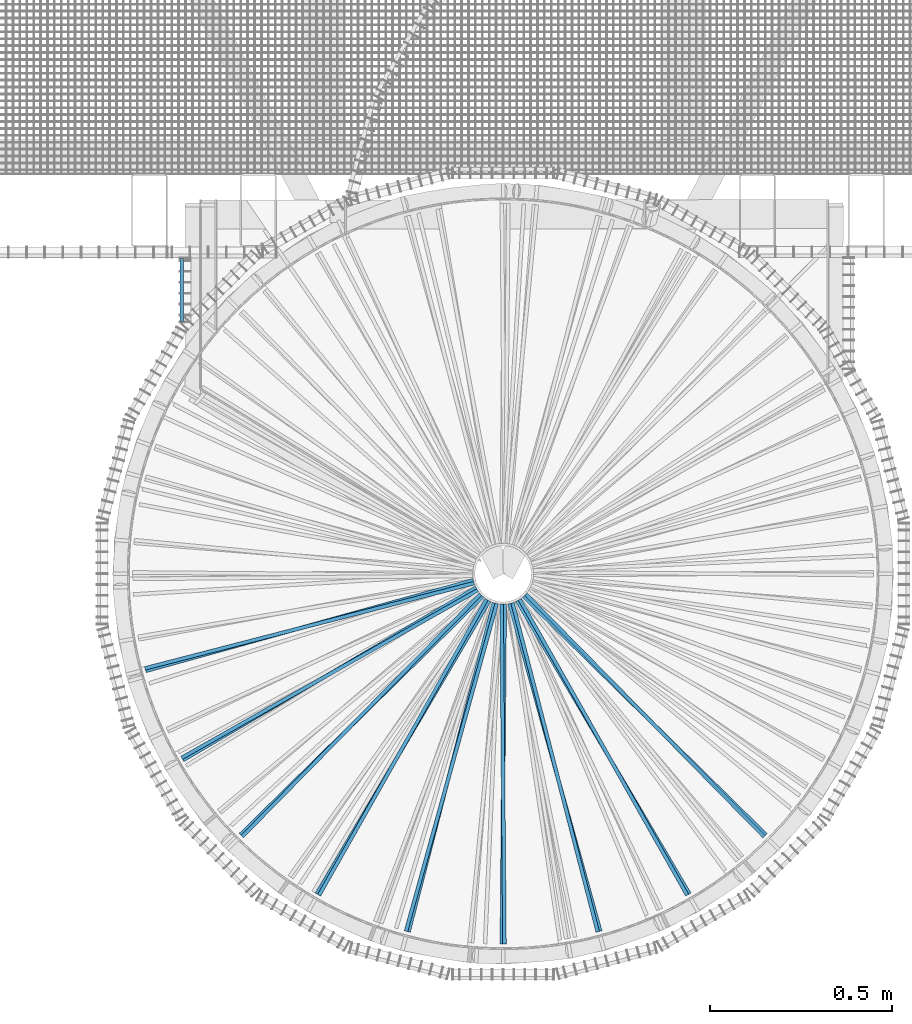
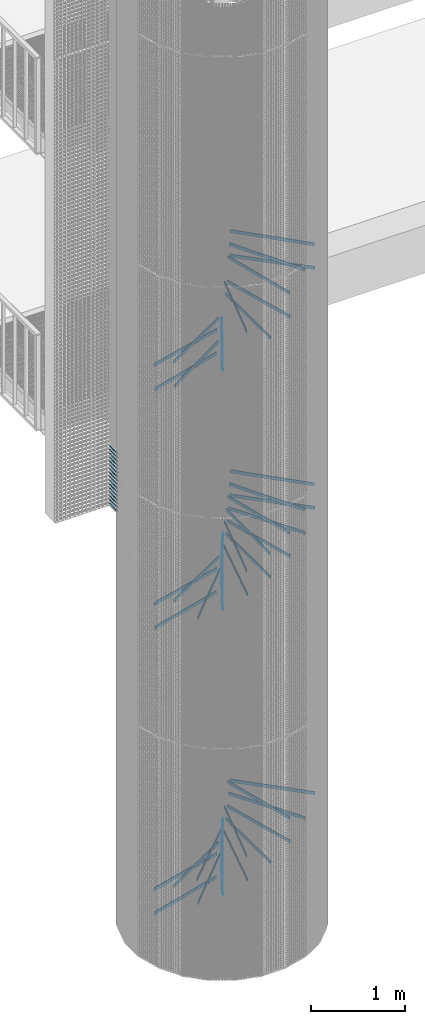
# One storey, part 174 of 1148: 58 beams, 18 elements without a shape of their own.
"""IFC2X3 building model written with IfcOpenShell, lengths in millimetres."""

from ifc_helpers import new_model, si_unit, frame, origin_with_axes, origin_2d_with_axis, place, context, subcontext, project, spatial, rectangle, extrude, material, type_object, element, aggregate, save


model = new_model("IFC2X3")

# Units and contexts
model_context = context("Model", 3, precision=1e-05, world=origin_with_axes())
body_context = subcontext(model_context, "Body", "Model", "MODEL_VIEW")
ifc_project = project(units=[si_unit("LENGTHUNIT", "METRE", prefix="MILLI"), si_unit("AREAUNIT", "SQUARE_METRE"), si_unit("VOLUMEUNIT", "CUBIC_METRE"), si_unit("MASSUNIT", "GRAM", prefix="KILO"), si_unit("TIMEUNIT", "SECOND"), si_unit("PLANEANGLEUNIT", "RADIAN"), si_unit("SOLIDANGLEUNIT", "STERADIAN"), si_unit("THERMODYNAMICTEMPERATUREUNIT", "DEGREE_CELSIUS"), si_unit("LUMINOUSINTENSITYUNIT", "LUMEN")], contexts=[model_context])

# Site, building, storey
site_placement = place(None, origin_with_axes())
site = spatial("IfcSite", under=ifc_project, at=site_placement, Name="Undefined", CompositionType="ELEMENT")
building_placement = place(site_placement, origin_with_axes())
building = spatial("IfcBuilding", under=site, at=building_placement, Name="Undefined", CompositionType="ELEMENT")
storey_placement = place(building_placement, origin_with_axes())
storey = spatial("IfcBuildingStorey", under=building, at=storey_placement, Name="Undefined", CompositionType="ELEMENT", Elevation=0.0)

# Assembly, beam
assembly_1_placement = place(storey_placement, origin_with_axes())
assembly_1 = element("IfcElementAssembly", 1, at=assembly_1_placement, inside=storey, AssemblyPlace="NOTDEFINED", PredefinedType="NOTDEFINED")
ifc_material = material(Name="STEEL/S235JR")
beam_type_1 = type_object("IfcBeamType", Name="PL2*10", PredefinedType="NOTDEFINED")
beam_1_placement = place(assembly_1_placement, frame((-884.882567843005, 867.997017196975, 5950.0), z_axis=(-1.0, 0.0, 0.0), x_axis=(0.0, -1.0, 0.0)))
beam_1 = element("IfcBeam", 2, at=beam_1_placement, type_object=beam_type_1, material=ifc_material, Name="ENTRETOISE", context=body_context, shape_type="SweptSolid", body=[
    extrude(rectangle(XDim=2.0, YDim=10.0, at=origin_2d_with_axis()), frame((174.109999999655, 0.0, 0.0), z_axis=(-1.0, 0.0, 0.0), x_axis=(0.0, -1.0, 0.0)), (0.0, 0.0, 1.0), 174.11),
])
aggregate(assembly_1, [beam_1])

assembly_2_placement = place(storey_placement, origin_with_axes())
assembly_2 = element("IfcElementAssembly", 3, at=assembly_2_placement, inside=storey, AssemblyPlace="NOTDEFINED", PredefinedType="NOTDEFINED")
beam_2_placement = place(assembly_2_placement, frame((-884.882567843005, 867.997017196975, 5900.0), z_axis=(-1.0, 0.0, 0.0), x_axis=(0.0, -1.0, 0.0)))
beam_2 = element("IfcBeam", 4, at=beam_2_placement, type_object=beam_type_1, material=ifc_material, Name="ENTRETOISE", context=body_context, shape_type="SweptSolid", body=[
    extrude(rectangle(XDim=2.0, YDim=10.0, at=origin_2d_with_axis()), frame((174.109999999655, 0.0, 0.0), z_axis=(-1.0, 0.0, 0.0), x_axis=(0.0, -1.0, 0.0)), (0.0, 0.0, 1.0), 174.11),
])
aggregate(assembly_2, [beam_2])

assembly_3_placement = place(storey_placement, origin_with_axes())
assembly_3 = element("IfcElementAssembly", 5, at=assembly_3_placement, inside=storey, AssemblyPlace="NOTDEFINED", PredefinedType="NOTDEFINED")
beam_3_placement = place(assembly_3_placement, frame((-884.882567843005, 867.997017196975, 5850.0), z_axis=(-1.0, 0.0, 0.0), x_axis=(0.0, -1.0, 0.0)))
beam_3 = element("IfcBeam", 6, at=beam_3_placement, type_object=beam_type_1, material=ifc_material, Name="ENTRETOISE", context=body_context, shape_type="SweptSolid", body=[
    extrude(rectangle(XDim=2.0, YDim=10.0, at=origin_2d_with_axis()), frame((174.109999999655, 0.0, 0.0), z_axis=(-1.0, 0.0, 0.0), x_axis=(0.0, -1.0, 0.0)), (0.0, 0.0, 1.0), 174.11),
])
aggregate(assembly_3, [beam_3])

assembly_4_placement = place(storey_placement, origin_with_axes())
assembly_4 = element("IfcElementAssembly", 7, at=assembly_4_placement, inside=storey, AssemblyPlace="NOTDEFINED", PredefinedType="NOTDEFINED")
beam_4_placement = place(assembly_4_placement, frame((-884.882567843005, 867.997017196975, 5800.0), z_axis=(-1.0, 0.0, 0.0), x_axis=(0.0, -1.0, 0.0)))
beam_4 = element("IfcBeam", 8, at=beam_4_placement, type_object=beam_type_1, material=ifc_material, Name="ENTRETOISE", context=body_context, shape_type="SweptSolid", body=[
    extrude(rectangle(XDim=2.0, YDim=10.0, at=origin_2d_with_axis()), frame((174.109999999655, 0.0, 0.0), z_axis=(-1.0, 0.0, 0.0), x_axis=(0.0, -1.0, 0.0)), (0.0, 0.0, 1.0), 174.11),
])
aggregate(assembly_4, [beam_4])

assembly_5_placement = place(storey_placement, origin_with_axes())
assembly_5 = element("IfcElementAssembly", 9, at=assembly_5_placement, inside=storey, AssemblyPlace="NOTDEFINED", PredefinedType="NOTDEFINED")
beam_5_placement = place(assembly_5_placement, frame((-884.882567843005, 867.997017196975, 5750.0), z_axis=(-1.0, 0.0, 0.0), x_axis=(0.0, -1.0, 0.0)))
beam_5 = element("IfcBeam", 10, at=beam_5_placement, type_object=beam_type_1, material=ifc_material, Name="ENTRETOISE", context=body_context, shape_type="SweptSolid", body=[
    extrude(rectangle(XDim=2.0, YDim=10.0, at=origin_2d_with_axis()), frame((174.109999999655, 0.0, 0.0), z_axis=(-1.0, 0.0, 0.0), x_axis=(0.0, -1.0, 0.0)), (0.0, 0.0, 1.0), 174.11),
])
aggregate(assembly_5, [beam_5])

assembly_6_placement = place(storey_placement, origin_with_axes())
assembly_6 = element("IfcElementAssembly", 11, at=assembly_6_placement, inside=storey, AssemblyPlace="NOTDEFINED", PredefinedType="NOTDEFINED")
beam_6_placement = place(assembly_6_placement, frame((-884.882567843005, 867.997017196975, 5700.0), z_axis=(-1.0, 0.0, 0.0), x_axis=(0.0, -1.0, 0.0)))
beam_6 = element("IfcBeam", 12, at=beam_6_placement, type_object=beam_type_1, material=ifc_material, Name="ENTRETOISE", context=body_context, shape_type="SweptSolid", body=[
    extrude(rectangle(XDim=2.0, YDim=10.0, at=origin_2d_with_axis()), frame((174.109999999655, 0.0, 0.0), z_axis=(-1.0, 0.0, 0.0), x_axis=(0.0, -1.0, 0.0)), (0.0, 0.0, 1.0), 174.11),
])
aggregate(assembly_6, [beam_6])

assembly_7_placement = place(storey_placement, origin_with_axes())
assembly_7 = element("IfcElementAssembly", 13, at=assembly_7_placement, inside=storey, AssemblyPlace="NOTDEFINED", PredefinedType="NOTDEFINED")
beam_7_placement = place(assembly_7_placement, frame((-884.882567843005, 867.997017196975, 5650.0), z_axis=(-1.0, 0.0, 0.0), x_axis=(0.0, -1.0, 0.0)))
beam_7 = element("IfcBeam", 14, at=beam_7_placement, type_object=beam_type_1, material=ifc_material, Name="ENTRETOISE", context=body_context, shape_type="SweptSolid", body=[
    extrude(rectangle(XDim=2.0, YDim=10.0, at=origin_2d_with_axis()), frame((174.109999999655, 0.0, 0.0), z_axis=(-1.0, 0.0, 0.0), x_axis=(0.0, -1.0, 0.0)), (0.0, 0.0, 1.0), 174.11),
])
aggregate(assembly_7, [beam_7])

assembly_8_placement = place(storey_placement, origin_with_axes())
assembly_8 = element("IfcElementAssembly", 15, at=assembly_8_placement, inside=storey, AssemblyPlace="NOTDEFINED", PredefinedType="NOTDEFINED")
beam_8_placement = place(assembly_8_placement, frame((-884.882567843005, 867.997017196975, 5600.0), z_axis=(-1.0, 0.0, 0.0), x_axis=(0.0, -1.0, 0.0)))
beam_8 = element("IfcBeam", 16, at=beam_8_placement, type_object=beam_type_1, material=ifc_material, Name="ENTRETOISE", context=body_context, shape_type="SweptSolid", body=[
    extrude(rectangle(XDim=2.0, YDim=10.0, at=origin_2d_with_axis()), frame((174.109999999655, 0.0, 0.0), z_axis=(-1.0, 0.0, 0.0), x_axis=(0.0, -1.0, 0.0)), (0.0, 0.0, 1.0), 174.11),
])
aggregate(assembly_8, [beam_8])

assembly_9_placement = place(storey_placement, origin_with_axes())
assembly_9 = element("IfcElementAssembly", 17, at=assembly_9_placement, inside=storey, AssemblyPlace="NOTDEFINED", PredefinedType="NOTDEFINED")
beam_9_placement = place(assembly_9_placement, frame((-884.882567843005, 867.997017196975, 5550.0), z_axis=(-1.0, 0.0, 0.0), x_axis=(0.0, -1.0, 0.0)))
beam_9 = element("IfcBeam", 18, at=beam_9_placement, type_object=beam_type_1, material=ifc_material, Name="ENTRETOISE", context=body_context, shape_type="SweptSolid", body=[
    extrude(rectangle(XDim=2.0, YDim=10.0, at=origin_2d_with_axis()), frame((174.109999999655, 0.0, 0.0), z_axis=(-1.0, 0.0, 0.0), x_axis=(0.0, -1.0, 0.0)), (0.0, 0.0, 1.0), 174.11),
])
aggregate(assembly_9, [beam_9])

assembly_10_placement = place(storey_placement, origin_with_axes())
assembly_10 = element("IfcElementAssembly", 19, at=assembly_10_placement, inside=storey, AssemblyPlace="NOTDEFINED", PredefinedType="NOTDEFINED")
beam_10_placement = place(assembly_10_placement, frame((-884.882567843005, 867.997017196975, 5500.0), z_axis=(-1.0, 0.0, 0.0), x_axis=(0.0, -1.0, 0.0)))
beam_10 = element("IfcBeam", 20, at=beam_10_placement, type_object=beam_type_1, material=ifc_material, Name="ENTRETOISE", context=body_context, shape_type="SweptSolid", body=[
    extrude(rectangle(XDim=2.0, YDim=10.0, at=origin_2d_with_axis()), frame((174.109999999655, 0.0, 0.0), z_axis=(-1.0, 0.0, 0.0), x_axis=(0.0, -1.0, 0.0)), (0.0, 0.0, 1.0), 174.11),
])
aggregate(assembly_10, [beam_10])

assembly_11_placement = place(storey_placement, origin_with_axes())
assembly_11 = element("IfcElementAssembly", 21, at=assembly_11_placement, inside=storey, AssemblyPlace="NOTDEFINED", PredefinedType="NOTDEFINED")
beam_11_placement = place(assembly_11_placement, frame((-884.882567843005, 867.997017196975, 5450.0), z_axis=(-1.0, 0.0, 0.0), x_axis=(0.0, -1.0, 0.0)))
beam_11 = element("IfcBeam", 22, at=beam_11_placement, type_object=beam_type_1, material=ifc_material, Name="ENTRETOISE", context=body_context, shape_type="SweptSolid", body=[
    extrude(rectangle(XDim=2.0, YDim=10.0, at=origin_2d_with_axis()), frame((174.109999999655, 0.0, 0.0), z_axis=(-1.0, 0.0, 0.0), x_axis=(0.0, -1.0, 0.0)), (0.0, 0.0, 1.0), 174.11),
])
aggregate(assembly_11, [beam_11])

assembly_12_placement = place(storey_placement, origin_with_axes())
assembly_12 = element("IfcElementAssembly", 23, at=assembly_12_placement, inside=storey, AssemblyPlace="NOTDEFINED", PredefinedType="NOTDEFINED")
beam_12_placement = place(assembly_12_placement, frame((-884.882567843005, 867.997017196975, 5400.0), z_axis=(-1.0, 0.0, 0.0), x_axis=(0.0, -1.0, 0.0)))
beam_12 = element("IfcBeam", 24, at=beam_12_placement, type_object=beam_type_1, material=ifc_material, Name="ENTRETOISE", context=body_context, shape_type="SweptSolid", body=[
    extrude(rectangle(XDim=2.0, YDim=10.0, at=origin_2d_with_axis()), frame((174.109999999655, 0.0, 0.0), z_axis=(-1.0, 0.0, 0.0), x_axis=(0.0, -1.0, 0.0)), (0.0, 0.0, 1.0), 174.11),
])
aggregate(assembly_12, [beam_12])

assembly_13_placement = place(storey_placement, origin_with_axes())
assembly_13 = element("IfcElementAssembly", 25, at=assembly_13_placement, inside=storey, AssemblyPlace="NOTDEFINED", PredefinedType="NOTDEFINED")
beam_13_placement = place(assembly_13_placement, frame((-884.882567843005, 867.997017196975, 5350.0), z_axis=(-1.0, 0.0, 0.0), x_axis=(0.0, -1.0, 0.0)))
beam_13 = element("IfcBeam", 26, at=beam_13_placement, type_object=beam_type_1, material=ifc_material, Name="ENTRETOISE", context=body_context, shape_type="SweptSolid", body=[
    extrude(rectangle(XDim=2.0, YDim=10.0, at=origin_2d_with_axis()), frame((174.109999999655, 0.0, 0.0), z_axis=(-1.0, 0.0, 0.0), x_axis=(0.0, -1.0, 0.0)), (0.0, 0.0, 1.0), 174.11),
])
aggregate(assembly_13, [beam_13])

assembly_14_placement = place(storey_placement, origin_with_axes())
assembly_14 = element("IfcElementAssembly", 27, at=assembly_14_placement, inside=storey, AssemblyPlace="NOTDEFINED", PredefinedType="NOTDEFINED")
beam_14_placement = place(assembly_14_placement, frame((-884.882567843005, 867.997017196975, 5300.0), z_axis=(-1.0, 0.0, 0.0), x_axis=(0.0, -1.0, 0.0)))
beam_14 = element("IfcBeam", 28, at=beam_14_placement, type_object=beam_type_1, material=ifc_material, Name="ENTRETOISE", context=body_context, shape_type="SweptSolid", body=[
    extrude(rectangle(XDim=2.0, YDim=10.0, at=origin_2d_with_axis()), frame((174.109999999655, 0.0, 0.0), z_axis=(-1.0, 0.0, 0.0), x_axis=(0.0, -1.0, 0.0)), (0.0, 0.0, 1.0), 174.11),
])
aggregate(assembly_14, [beam_14])

assembly_15_placement = place(storey_placement, origin_with_axes())
assembly_15 = element("IfcElementAssembly", 29, at=assembly_15_placement, inside=storey, AssemblyPlace="NOTDEFINED", PredefinedType="NOTDEFINED")
beam_15_placement = place(assembly_15_placement, frame((-884.882567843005, 867.997017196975, 5250.0), z_axis=(-1.0, 0.0, 0.0), x_axis=(0.0, -1.0, 0.0)))
beam_15 = element("IfcBeam", 30, at=beam_15_placement, type_object=beam_type_1, material=ifc_material, Name="ENTRETOISE", context=body_context, shape_type="SweptSolid", body=[
    extrude(rectangle(XDim=2.0, YDim=10.0, at=origin_2d_with_axis()), frame((174.109999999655, 0.0, 0.0), z_axis=(-1.0, 0.0, 0.0), x_axis=(0.0, -1.0, 0.0)), (0.0, 0.0, 1.0), 174.11),
])
aggregate(assembly_15, [beam_15])

assembly_16_placement = place(storey_placement, origin_with_axes())
assembly_16 = element("IfcElementAssembly", 31, at=assembly_16_placement, inside=storey, AssemblyPlace="NOTDEFINED", PredefinedType="NOTDEFINED")
beam_16_placement = place(assembly_16_placement, frame((-884.882567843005, 867.997017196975, 5200.0), z_axis=(-1.0, 0.0, 0.0), x_axis=(0.0, -1.0, 0.0)))
beam_16 = element("IfcBeam", 32, at=beam_16_placement, type_object=beam_type_1, material=ifc_material, Name="ENTRETOISE", context=body_context, shape_type="SweptSolid", body=[
    extrude(rectangle(XDim=2.0, YDim=10.0, at=origin_2d_with_axis()), frame((174.109999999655, 0.0, 0.0), z_axis=(-1.0, 0.0, 0.0), x_axis=(0.0, -1.0, 0.0)), (0.0, 0.0, 1.0), 174.11),
])
aggregate(assembly_16, [beam_16])

# Assembly, beams
assembly_17_placement = place(storey_placement, origin_with_axes())
assembly_17 = element("IfcElementAssembly", 33, at=assembly_17_placement, inside=storey, Name="POTEAU", AssemblyPlace="NOTDEFINED", PredefinedType="NOTDEFINED")
beam_type_2 = type_object("IfcBeamType", Name="PL10*40", PredefinedType="NOTDEFINED")
beam_17_placement = place(assembly_17_placement, frame((25.8705774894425, -79.9781805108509, 8657.28000000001), z_axis=(0.0, 0.0, 1.0), x_axis=(0.250629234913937, -0.968083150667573, 0.0)))
beam_17 = element("IfcBeam", 34, at=beam_17_placement, type_object=beam_type_2, material=ifc_material, Name="RAIDISSEUR", context=body_context, shape_type="SweptSolid", body=[
    extrude(rectangle(XDim=10.0, YDim=40.0, at=origin_2d_with_axis()), frame((935.982964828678, -2.59787459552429e-14, -3.63797880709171e-12), z_axis=(-1.0, 0.0, 0.0), x_axis=(0.0, -1.0, 0.0)), (0.0, 0.0, 1.0), 935.98),
])
beam_18_placement = place(assembly_17_placement, frame((-17.5845129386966, -82.1984248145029, 8344.24000000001), z_axis=(0.0, 0.0, 1.0), x_axis=(-0.266990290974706, -0.963699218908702, 0.0)))
beam_18 = element("IfcBeam", 35, at=beam_18_placement, type_object=beam_type_2, material=ifc_material, Name="RAIDISSEUR", context=body_context, shape_type="SweptSolid", body=[
    extrude(rectangle(XDim=10.0, YDim=40.0, at=origin_2d_with_axis()), frame((935.982964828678, -2.59787459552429e-14, -3.63797880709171e-12), z_axis=(-1.0, 0.0, 0.0), x_axis=(0.0, -1.0, 0.0)), (0.0, 0.0, 1.0), 935.98),
])
beam_19_placement = place(assembly_17_placement, frame((-74.8463745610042, -38.2598530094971, 7561.64), z_axis=(0.0, 0.0, 1.0), x_axis=(-0.861759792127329, -0.507316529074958, 0.0)))
beam_19 = element("IfcBeam", 36, at=beam_19_placement, type_object=beam_type_2, material=ifc_material, Name="RAIDISSEUR", context=body_context, shape_type="SweptSolid", body=[
    extrude(rectangle(XDim=10.0, YDim=40.0, at=origin_2d_with_axis()), frame((935.982964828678, -2.59787459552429e-14, -3.63797880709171e-12), z_axis=(-1.0, 0.0, 0.0), x_axis=(0.0, -1.0, 0.0)), (0.0, 0.0, 1.0), 935.98),
])
beam_20_placement = place(assembly_17_placement, frame((62.3936675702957, -56.3278473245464, 8970.32000000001), z_axis=(0.0, 0.0, 1.0), x_axis=(0.701092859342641, -0.713069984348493, 0.0)))
beam_20 = element("IfcBeam", 37, at=beam_20_placement, type_object=beam_type_2, material=ifc_material, Name="RAIDISSEUR", context=body_context, shape_type="SweptSolid", body=[
    extrude(rectangle(XDim=10.0, YDim=40.0, at=origin_2d_with_axis()), frame((935.982964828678, -2.59787459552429e-14, -3.63797880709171e-12), z_axis=(-1.0, 0.0, 0.0), x_axis=(0.0, -1.0, 0.0)), (0.0, 0.0, 1.0), 935.98),
])
beam_21_placement = place(assembly_17_placement, frame((-82.1984248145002, -17.5845129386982, 7405.12), z_axis=(0.0, 0.0, 1.0), x_axis=(-0.963699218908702, -0.266990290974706, 0.0)))
beam_21 = element("IfcBeam", 38, at=beam_21_placement, type_object=beam_type_2, material=ifc_material, Name="RAIDISSEUR", context=body_context, shape_type="SweptSolid", body=[
    extrude(rectangle(XDim=10.0, YDim=40.0, at=origin_2d_with_axis()), frame((935.982964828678, -2.59787459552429e-14, -3.63797880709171e-12), z_axis=(-1.0, 0.0, 0.0), x_axis=(0.0, -1.0, 0.0)), (0.0, 0.0, 1.0), 935.98),
])
beam_22_placement = place(assembly_17_placement, frame((-70.5571919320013, -45.6889352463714, 7874.68), z_axis=(0.0, 0.0, 1.0), x_axis=(-0.870228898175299, -0.492647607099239, 0.0)))
beam_22 = element("IfcBeam", 39, at=beam_22_placement, type_object=beam_type_2, material=ifc_material, Name="RAIDISSEUR", context=body_context, shape_type="SweptSolid", body=[
    extrude(rectangle(XDim=10.0, YDim=40.0, at=origin_2d_with_axis()), frame((935.982964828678, -2.59787459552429e-14, -3.63797880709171e-12), z_axis=(-1.0, 0.0, 0.0), x_axis=(0.0, -1.0, 0.0)), (0.0, 0.0, 1.0), 935.98),
])
beam_23_placement = place(assembly_17_placement, frame((-45.6889352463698, -70.5571919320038, 7874.68), z_axis=(0.0, 0.0, 1.0), x_axis=(-0.492647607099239, -0.870228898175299, 0.0)))
beam_23 = element("IfcBeam", 40, at=beam_23_placement, type_object=beam_type_2, material=ifc_material, Name="RAIDISSEUR", context=body_context, shape_type="SweptSolid", body=[
    extrude(rectangle(XDim=10.0, YDim=40.0, at=origin_2d_with_axis()), frame((935.982964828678, -2.59787459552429e-14, -3.63797880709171e-12), z_axis=(-1.0, 0.0, 0.0), x_axis=(0.0, -1.0, 0.0)), (0.0, 0.0, 1.0), 935.98),
])
beam_24_placement = place(assembly_17_placement, frame((-79.9781805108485, -25.8705774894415, 7718.16), z_axis=(0.0, 0.0, 1.0), x_axis=(-0.968083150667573, -0.250629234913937, 0.0)))
beam_24 = element("IfcBeam", 41, at=beam_24_placement, type_object=beam_type_2, material=ifc_material, Name="RAIDISSEUR", context=body_context, shape_type="SweptSolid", body=[
    extrude(rectangle(XDim=10.0, YDim=40.0, at=origin_2d_with_axis()), frame((935.982964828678, -2.59787459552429e-14, -3.63797880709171e-12), z_axis=(-1.0, 0.0, 0.0), x_axis=(0.0, -1.0, 0.0)), (0.0, 0.0, 1.0), 935.98),
])
beam_25_placement = place(assembly_17_placement, frame((-4.28918262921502, -83.9487882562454, 8187.72), z_axis=(0.0, 0.0, 1.0), x_axis=(0.00846910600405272, -0.99996413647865, 0.0)))
beam_25 = element("IfcBeam", 42, at=beam_25_placement, type_object=beam_type_2, material=ifc_material, Name="RAIDISSEUR", context=body_context, shape_type="SweptSolid", body=[
    extrude(rectangle(XDim=10.0, YDim=40.0, at=origin_2d_with_axis()), frame((935.982964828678, -2.59787459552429e-14, -3.63797880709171e-12), z_axis=(-1.0, 0.0, 0.0), x_axis=(0.0, -1.0, 0.0)), (0.0, 0.0, 1.0), 935.98),
])
beam_26_placement = place(assembly_17_placement, frame((17.5845129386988, -82.1984248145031, 8344.24000000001), z_axis=(0.0, 0.0, 1.0), x_axis=(0.266990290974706, -0.963699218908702, 0.0)))
beam_26 = element("IfcBeam", 43, at=beam_26_placement, type_object=beam_type_2, material=ifc_material, Name="RAIDISSEUR", context=body_context, shape_type="SweptSolid", body=[
    extrude(rectangle(XDim=10.0, YDim=40.0, at=origin_2d_with_axis()), frame((935.982964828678, -2.59787459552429e-14, -3.63797880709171e-12), z_axis=(-1.0, 0.0, 0.0), x_axis=(0.0, -1.0, 0.0)), (0.0, 0.0, 1.0), 935.98),
])
beam_27_placement = place(assembly_17_placement, frame((56.3278473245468, -62.3936675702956, 8657.28000000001), z_axis=(0.0, 0.0, 1.0), x_axis=(0.713069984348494, -0.70109285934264, 0.0)))
beam_27 = element("IfcBeam", 44, at=beam_27_placement, type_object=beam_type_2, material=ifc_material, Name="RAIDISSEUR", context=body_context, shape_type="SweptSolid", body=[
    extrude(rectangle(XDim=10.0, YDim=40.0, at=origin_2d_with_axis()), frame((935.982964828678, -2.59787459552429e-14, -3.63797880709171e-12), z_axis=(-1.0, 0.0, 0.0), x_axis=(0.0, -1.0, 0.0)), (0.0, 0.0, 1.0), 935.98),
])
beam_28_placement = place(assembly_17_placement, frame((45.6889352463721, -70.5571919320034, 8813.80000000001), z_axis=(0.0, 0.0, 1.0), x_axis=(0.492647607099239, -0.870228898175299, 0.0)))
beam_28 = element("IfcBeam", 45, at=beam_28_placement, type_object=beam_type_2, material=ifc_material, Name="RAIDISSEUR", context=body_context, shape_type="SweptSolid", body=[
    extrude(rectangle(XDim=10.0, YDim=40.0, at=origin_2d_with_axis()), frame((935.982964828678, -2.59787459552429e-14, -3.63797880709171e-12), z_axis=(-1.0, 0.0, 0.0), x_axis=(0.0, -1.0, 0.0)), (0.0, 0.0, 1.0), 935.98),
])
aggregate(assembly_17, [beam_17, beam_18, beam_19, beam_20, beam_21, beam_22, beam_23, beam_24, beam_25, beam_26, beam_27, beam_28])

assembly_18_placement = place(storey_placement, origin_with_axes())
assembly_18 = element("IfcElementAssembly", 46, at=assembly_18_placement, inside=storey, Name="POTEAU", AssemblyPlace="NOTDEFINED", PredefinedType="NOTDEFINED")
beam_29_placement = place(assembly_18_placement, frame((25.8705774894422, -79.9781805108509, 1830.24), z_axis=(0.0, 0.0, 1.0), x_axis=(0.250629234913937, -0.968083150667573, 0.0)))
beam_29 = element("IfcBeam", 47, at=beam_29_placement, type_object=beam_type_2, material=ifc_material, Name="RAIDISSEUR", context=body_context, shape_type="SweptSolid", body=[
    extrude(rectangle(XDim=10.0, YDim=40.0, at=origin_2d_with_axis()), frame((935.982964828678, -2.59787459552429e-14, -3.63797880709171e-12), z_axis=(-1.0, 0.0, 0.0), x_axis=(0.0, -1.0, 0.0)), (0.0, 0.0, 1.0), 935.98),
])
beam_30_placement = place(assembly_18_placement, frame((-82.1984248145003, -17.5845129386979, 594.08), z_axis=(0.0, 0.0, 1.0), x_axis=(-0.963699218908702, -0.266990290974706, 0.0)))
beam_30 = element("IfcBeam", 48, at=beam_30_placement, type_object=beam_type_2, material=ifc_material, Name="RAIDISSEUR", context=body_context, shape_type="SweptSolid", body=[
    extrude(rectangle(XDim=10.0, YDim=40.0, at=origin_2d_with_axis()), frame((935.982964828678, -2.59787459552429e-14, -3.63797880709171e-12), z_axis=(-1.0, 0.0, 0.0), x_axis=(0.0, -1.0, 0.0)), (0.0, 0.0, 1.0), 935.98),
])
beam_31_placement = place(assembly_18_placement, frame((56.3278473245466, -62.3936675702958, 1830.24), z_axis=(0.0, 0.0, 1.0), x_axis=(0.713069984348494, -0.70109285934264, 0.0)))
beam_31 = element("IfcBeam", 49, at=beam_31_placement, type_object=beam_type_2, material=ifc_material, Name="RAIDISSEUR", context=body_context, shape_type="SweptSolid", body=[
    extrude(rectangle(XDim=10.0, YDim=40.0, at=origin_2d_with_axis()), frame((935.982964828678, -2.59787459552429e-14, -3.63797880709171e-12), z_axis=(-1.0, 0.0, 0.0), x_axis=(0.0, -1.0, 0.0)), (0.0, 0.0, 1.0), 935.98),
])
beam_32_placement = place(assembly_18_placement, frame((17.5845129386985, -82.1984248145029, 1521.2), z_axis=(0.0, 0.0, 1.0), x_axis=(0.266990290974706, -0.963699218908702, 0.0)))
beam_32 = element("IfcBeam", 50, at=beam_32_placement, type_object=beam_type_2, material=ifc_material, Name="RAIDISSEUR", context=body_context, shape_type="SweptSolid", body=[
    extrude(rectangle(XDim=10.0, YDim=40.0, at=origin_2d_with_axis()), frame((935.982964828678, -2.59787459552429e-14, -3.63797880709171e-12), z_axis=(-1.0, 0.0, 0.0), x_axis=(0.0, -1.0, 0.0)), (0.0, 0.0, 1.0), 935.98),
])
beam_33_placement = place(assembly_18_placement, frame((-17.5845129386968, -82.1984248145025, 1521.2), z_axis=(0.0, 0.0, 1.0), x_axis=(-0.266990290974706, -0.963699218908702, 0.0)))
beam_33 = element("IfcBeam", 51, at=beam_33_placement, type_object=beam_type_2, material=ifc_material, Name="RAIDISSEUR", context=body_context, shape_type="SweptSolid", body=[
    extrude(rectangle(XDim=10.0, YDim=40.0, at=origin_2d_with_axis()), frame((935.982964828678, -2.59787459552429e-14, -3.63797880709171e-12), z_axis=(-1.0, 0.0, 0.0), x_axis=(0.0, -1.0, 0.0)), (0.0, 0.0, 1.0), 935.98),
])
beam_34_placement = place(assembly_18_placement, frame((-4.28918262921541, -83.9487882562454, 5075.16), z_axis=(0.0, 0.0, 1.0), x_axis=(0.00846910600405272, -0.99996413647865, 0.0)))
beam_34 = element("IfcBeam", 52, at=beam_34_placement, type_object=beam_type_2, material=ifc_material, Name="RAIDISSEUR", context=body_context, shape_type="SweptSolid", body=[
    extrude(rectangle(XDim=10.0, YDim=40.0, at=origin_2d_with_axis()), frame((935.982964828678, -2.59787459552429e-14, -3.63797880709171e-12), z_axis=(-1.0, 0.0, 0.0), x_axis=(0.0, -1.0, 0.0)), (0.0, 0.0, 1.0), 935.98),
])
beam_35_placement = place(assembly_18_placement, frame((4.28918262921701, -83.9487882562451, 5384.2), z_axis=(0.0, 0.0, 1.0), x_axis=(-0.00846910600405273, -0.99996413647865, 0.0)))
beam_35 = element("IfcBeam", 53, at=beam_35_placement, type_object=beam_type_2, material=ifc_material, Name="RAIDISSEUR", context=body_context, shape_type="SweptSolid", body=[
    extrude(rectangle(XDim=10.0, YDim=40.0, at=origin_2d_with_axis()), frame((935.982964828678, -2.59787459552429e-14, -3.63797880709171e-12), z_axis=(-1.0, 0.0, 0.0), x_axis=(0.0, -1.0, 0.0)), (0.0, 0.0, 1.0), 935.98),
])
beam_36_placement = place(assembly_18_placement, frame((-62.3936675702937, -56.3278473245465, 4611.6), z_axis=(0.0, 0.0, 1.0), x_axis=(-0.701092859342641, -0.713069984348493, 0.0)))
beam_36 = element("IfcBeam", 54, at=beam_36_placement, type_object=beam_type_2, material=ifc_material, Name="RAIDISSEUR", context=body_context, shape_type="SweptSolid", body=[
    extrude(rectangle(XDim=10.0, YDim=40.0, at=origin_2d_with_axis()), frame((935.982964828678, -2.59787459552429e-14, -3.63797880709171e-12), z_axis=(-1.0, 0.0, 0.0), x_axis=(0.0, -1.0, 0.0)), (0.0, 0.0, 1.0), 935.98),
])
beam_37_placement = place(assembly_18_placement, frame((17.5845129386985, -82.1984248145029, 5229.68), z_axis=(0.0, 0.0, 1.0), x_axis=(0.266990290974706, -0.963699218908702, 0.0)))
beam_37 = element("IfcBeam", 55, at=beam_37_placement, type_object=beam_type_2, material=ifc_material, Name="RAIDISSEUR", context=body_context, shape_type="SweptSolid", body=[
    extrude(rectangle(XDim=10.0, YDim=40.0, at=origin_2d_with_axis()), frame((935.982964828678, -2.59787459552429e-14, -3.63797880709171e-12), z_axis=(-1.0, 0.0, 0.0), x_axis=(0.0, -1.0, 0.0)), (0.0, 0.0, 1.0), 935.98),
])
beam_38_placement = place(assembly_18_placement, frame((-70.5571919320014, -45.6889352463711, 4766.12), z_axis=(0.0, 0.0, 1.0), x_axis=(-0.870228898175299, -0.492647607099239, 0.0)))
beam_38 = element("IfcBeam", 56, at=beam_38_placement, type_object=beam_type_2, material=ifc_material, Name="RAIDISSEUR", context=body_context, shape_type="SweptSolid", body=[
    extrude(rectangle(XDim=10.0, YDim=40.0, at=origin_2d_with_axis()), frame((935.982964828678, -2.59787459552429e-14, -3.63797880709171e-12), z_axis=(-1.0, 0.0, 0.0), x_axis=(0.0, -1.0, 0.0)), (0.0, 0.0, 1.0), 935.98),
])
beam_39_placement = place(assembly_18_placement, frame((-79.9781805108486, -25.870577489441, 903.12), z_axis=(0.0, 0.0, 1.0), x_axis=(-0.968083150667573, -0.250629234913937, 0.0)))
beam_39 = element("IfcBeam", 57, at=beam_39_placement, type_object=beam_type_2, material=ifc_material, Name="RAIDISSEUR", context=body_context, shape_type="SweptSolid", body=[
    extrude(rectangle(XDim=10.0, YDim=40.0, at=origin_2d_with_axis()), frame((935.982964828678, -2.59787459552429e-14, -3.63797880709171e-12), z_axis=(-1.0, 0.0, 0.0), x_axis=(0.0, -1.0, 0.0)), (0.0, 0.0, 1.0), 935.98),
])
beam_40_placement = place(assembly_18_placement, frame((-70.5571919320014, -45.6889352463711, 1057.64), z_axis=(0.0, 0.0, 1.0), x_axis=(-0.870228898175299, -0.492647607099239, 0.0)))
beam_40 = element("IfcBeam", 58, at=beam_40_placement, type_object=beam_type_2, material=ifc_material, Name="RAIDISSEUR", context=body_context, shape_type="SweptSolid", body=[
    extrude(rectangle(XDim=10.0, YDim=40.0, at=origin_2d_with_axis()), frame((935.982964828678, -2.59787459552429e-14, -3.63797880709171e-12), z_axis=(-1.0, 0.0, 0.0), x_axis=(0.0, -1.0, 0.0)), (0.0, 0.0, 1.0), 935.98),
])
beam_41_placement = place(assembly_18_placement, frame((-25.8705774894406, -79.978180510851, 1212.16), z_axis=(0.0, 0.0, 1.0), x_axis=(-0.250629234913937, -0.968083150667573, 0.0)))
beam_41 = element("IfcBeam", 59, at=beam_41_placement, type_object=beam_type_2, material=ifc_material, Name="RAIDISSEUR", context=body_context, shape_type="SweptSolid", body=[
    extrude(rectangle(XDim=10.0, YDim=40.0, at=origin_2d_with_axis()), frame((935.982964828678, -2.59787459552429e-14, -3.63797880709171e-12), z_axis=(-1.0, 0.0, 0.0), x_axis=(0.0, -1.0, 0.0)), (0.0, 0.0, 1.0), 935.98),
])
beam_42_placement = place(assembly_18_placement, frame((56.3278473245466, -62.3936675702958, 5538.72), z_axis=(0.0, 0.0, 1.0), x_axis=(0.713069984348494, -0.70109285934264, 0.0)))
beam_42 = element("IfcBeam", 60, at=beam_42_placement, type_object=beam_type_2, material=ifc_material, Name="RAIDISSEUR", context=body_context, shape_type="SweptSolid", body=[
    extrude(rectangle(XDim=10.0, YDim=40.0, at=origin_2d_with_axis()), frame((935.982964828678, -2.59787459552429e-14, -3.63797880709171e-12), z_axis=(-1.0, 0.0, 0.0), x_axis=(0.0, -1.0, 0.0)), (0.0, 0.0, 1.0), 935.98),
])
beam_43_placement = place(assembly_18_placement, frame((-79.9781805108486, -25.8705774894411, 4611.6), z_axis=(0.0, 0.0, 1.0), x_axis=(-0.968083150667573, -0.250629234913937, 0.0)))
beam_43 = element("IfcBeam", 61, at=beam_43_placement, type_object=beam_type_2, material=ifc_material, Name="RAIDISSEUR", context=body_context, shape_type="SweptSolid", body=[
    extrude(rectangle(XDim=10.0, YDim=40.0, at=origin_2d_with_axis()), frame((935.982964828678, -2.59787459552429e-14, -3.63797880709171e-12), z_axis=(-1.0, 0.0, 0.0), x_axis=(0.0, -1.0, 0.0)), (0.0, 0.0, 1.0), 935.98),
])
beam_44_placement = place(assembly_18_placement, frame((38.2598530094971, -74.8463745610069, 5384.2), z_axis=(0.0, 0.0, 1.0), x_axis=(0.507316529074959, -0.861759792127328, 0.0)))
beam_44 = element("IfcBeam", 62, at=beam_44_placement, type_object=beam_type_2, material=ifc_material, Name="RAIDISSEUR", context=body_context, shape_type="SweptSolid", body=[
    extrude(rectangle(XDim=10.0, YDim=40.0, at=origin_2d_with_axis()), frame((935.982964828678, -2.59787459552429e-14, -3.63797880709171e-12), z_axis=(-1.0, 0.0, 0.0), x_axis=(0.0, -1.0, 0.0)), (0.0, 0.0, 1.0), 935.98),
])
beam_45_placement = place(assembly_18_placement, frame((-38.2598530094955, -74.8463745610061, 5075.16), z_axis=(0.0, 0.0, 1.0), x_axis=(-0.50731652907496, -0.861759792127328, 0.0)))
beam_45 = element("IfcBeam", 63, at=beam_45_placement, type_object=beam_type_2, material=ifc_material, Name="RAIDISSEUR", context=body_context, shape_type="SweptSolid", body=[
    extrude(rectangle(XDim=10.0, YDim=40.0, at=origin_2d_with_axis()), frame((935.982964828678, -2.59787459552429e-14, -3.63797880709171e-12), z_axis=(-1.0, 0.0, 0.0), x_axis=(0.0, -1.0, 0.0)), (0.0, 0.0, 1.0), 935.98),
])
beam_46_placement = place(assembly_18_placement, frame((-62.3936675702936, -56.3278473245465, 903.12), z_axis=(0.0, 0.0, 1.0), x_axis=(-0.701092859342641, -0.713069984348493, 0.0)))
beam_46 = element("IfcBeam", 64, at=beam_46_placement, type_object=beam_type_2, material=ifc_material, Name="RAIDISSEUR", context=body_context, shape_type="SweptSolid", body=[
    extrude(rectangle(XDim=10.0, YDim=40.0, at=origin_2d_with_axis()), frame((935.982964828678, -2.59787459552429e-14, -3.63797880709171e-12), z_axis=(-1.0, 0.0, 0.0), x_axis=(0.0, -1.0, 0.0)), (0.0, 0.0, 1.0), 935.98),
])
beam_47_placement = place(assembly_18_placement, frame((45.6889352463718, -70.5571919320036, 5693.24), z_axis=(0.0, 0.0, 1.0), x_axis=(0.492647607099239, -0.870228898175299, 0.0)))
beam_47 = element("IfcBeam", 65, at=beam_47_placement, type_object=beam_type_2, material=ifc_material, Name="RAIDISSEUR", context=body_context, shape_type="SweptSolid", body=[
    extrude(rectangle(XDim=10.0, YDim=40.0, at=origin_2d_with_axis()), frame((935.982964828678, -2.59787459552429e-14, -3.63797880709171e-12), z_axis=(-1.0, 0.0, 0.0), x_axis=(0.0, -1.0, 0.0)), (0.0, 0.0, 1.0), 935.98),
])
beam_48_placement = place(assembly_18_placement, frame((-45.6889352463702, -70.5571919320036, 4766.12), z_axis=(0.0, 0.0, 1.0), x_axis=(-0.492647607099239, -0.870228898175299, 0.0)))
beam_48 = element("IfcBeam", 66, at=beam_48_placement, type_object=beam_type_2, material=ifc_material, Name="RAIDISSEUR", context=body_context, shape_type="SweptSolid", body=[
    extrude(rectangle(XDim=10.0, YDim=40.0, at=origin_2d_with_axis()), frame((935.982964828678, -2.59787459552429e-14, -3.63797880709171e-12), z_axis=(-1.0, 0.0, 0.0), x_axis=(0.0, -1.0, 0.0)), (0.0, 0.0, 1.0), 935.98),
])
beam_49_placement = place(assembly_18_placement, frame((25.8705774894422, -79.9781805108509, 5538.72), z_axis=(0.0, 0.0, 1.0), x_axis=(0.250629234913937, -0.968083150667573, 0.0)))
beam_49 = element("IfcBeam", 67, at=beam_49_placement, type_object=beam_type_2, material=ifc_material, Name="RAIDISSEUR", context=body_context, shape_type="SweptSolid", body=[
    extrude(rectangle(XDim=10.0, YDim=40.0, at=origin_2d_with_axis()), frame((935.982964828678, -2.59787459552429e-14, -3.63797880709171e-12), z_axis=(-1.0, 0.0, 0.0), x_axis=(0.0, -1.0, 0.0)), (0.0, 0.0, 1.0), 935.98),
])
beam_50_placement = place(assembly_18_placement, frame((62.3936675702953, -56.3278473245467, 5847.76), z_axis=(0.0, 0.0, 1.0), x_axis=(0.701092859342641, -0.713069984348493, 0.0)))
beam_50 = element("IfcBeam", 68, at=beam_50_placement, type_object=beam_type_2, material=ifc_material, Name="RAIDISSEUR", context=body_context, shape_type="SweptSolid", body=[
    extrude(rectangle(XDim=10.0, YDim=40.0, at=origin_2d_with_axis()), frame((935.982964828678, -2.59787459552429e-14, -3.63797880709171e-12), z_axis=(-1.0, 0.0, 0.0), x_axis=(0.0, -1.0, 0.0)), (0.0, 0.0, 1.0), 935.98),
])
beam_51_placement = place(assembly_18_placement, frame((-4.2891826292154, -83.9487882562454, 1366.68), z_axis=(0.0, 0.0, 1.0), x_axis=(0.00846910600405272, -0.99996413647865, 0.0)))
beam_51 = element("IfcBeam", 69, at=beam_51_placement, type_object=beam_type_2, material=ifc_material, Name="RAIDISSEUR", context=body_context, shape_type="SweptSolid", body=[
    extrude(rectangle(XDim=10.0, YDim=40.0, at=origin_2d_with_axis()), frame((935.982964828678, -2.59787459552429e-14, -3.63797880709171e-12), z_axis=(-1.0, 0.0, 0.0), x_axis=(0.0, -1.0, 0.0)), (0.0, 0.0, 1.0), 935.98),
])
beam_52_placement = place(assembly_18_placement, frame((-56.3278473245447, -62.393667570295, 1212.16), z_axis=(0.0, 0.0, 1.0), x_axis=(-0.713069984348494, -0.70109285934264, 0.0)))
beam_52 = element("IfcBeam", 70, at=beam_52_placement, type_object=beam_type_2, material=ifc_material, Name="RAIDISSEUR", context=body_context, shape_type="SweptSolid", body=[
    extrude(rectangle(XDim=10.0, YDim=40.0, at=origin_2d_with_axis()), frame((935.982964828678, -2.59787459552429e-14, -3.63797880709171e-12), z_axis=(-1.0, 0.0, 0.0), x_axis=(0.0, -1.0, 0.0)), (0.0, 0.0, 1.0), 935.98),
])
beam_53_placement = place(assembly_18_placement, frame((-45.6889352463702, -70.5571919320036, 1057.64), z_axis=(0.0, 0.0, 1.0), x_axis=(-0.492647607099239, -0.870228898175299, 0.0)))
beam_53 = element("IfcBeam", 71, at=beam_53_placement, type_object=beam_type_2, material=ifc_material, Name="RAIDISSEUR", context=body_context, shape_type="SweptSolid", body=[
    extrude(rectangle(XDim=10.0, YDim=40.0, at=origin_2d_with_axis()), frame((935.982964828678, -2.59787459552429e-14, -3.63797880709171e-12), z_axis=(-1.0, 0.0, 0.0), x_axis=(0.0, -1.0, 0.0)), (0.0, 0.0, 1.0), 935.98),
])
beam_54_placement = place(assembly_18_placement, frame((-82.1984248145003, -17.5845129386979, 4302.56), z_axis=(0.0, 0.0, 1.0), x_axis=(-0.963699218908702, -0.266990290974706, 0.0)))
beam_54 = element("IfcBeam", 72, at=beam_54_placement, type_object=beam_type_2, material=ifc_material, Name="RAIDISSEUR", context=body_context, shape_type="SweptSolid", body=[
    extrude(rectangle(XDim=10.0, YDim=40.0, at=origin_2d_with_axis()), frame((935.982964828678, -2.59787459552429e-14, -3.63797880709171e-12), z_axis=(-1.0, 0.0, 0.0), x_axis=(0.0, -1.0, 0.0)), (0.0, 0.0, 1.0), 935.98),
])
beam_55_placement = place(assembly_18_placement, frame((-17.5845129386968, -82.1984248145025, 5229.68), z_axis=(0.0, 0.0, 1.0), x_axis=(-0.266990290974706, -0.963699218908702, 0.0)))
beam_55 = element("IfcBeam", 73, at=beam_55_placement, type_object=beam_type_2, material=ifc_material, Name="RAIDISSEUR", context=body_context, shape_type="SweptSolid", body=[
    extrude(rectangle(XDim=10.0, YDim=40.0, at=origin_2d_with_axis()), frame((935.982964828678, -2.59787459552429e-14, -3.63797880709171e-12), z_axis=(-1.0, 0.0, 0.0), x_axis=(0.0, -1.0, 0.0)), (0.0, 0.0, 1.0), 935.98),
])
beam_56_placement = place(assembly_18_placement, frame((-38.2598530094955, -74.8463745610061, 1366.68), z_axis=(0.0, 0.0, 1.0), x_axis=(-0.50731652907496, -0.861759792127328, 0.0)))
beam_56 = element("IfcBeam", 74, at=beam_56_placement, type_object=beam_type_2, material=ifc_material, Name="RAIDISSEUR", context=body_context, shape_type="SweptSolid", body=[
    extrude(rectangle(XDim=10.0, YDim=40.0, at=origin_2d_with_axis()), frame((935.982964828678, -2.59787459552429e-14, -3.63797880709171e-12), z_axis=(-1.0, 0.0, 0.0), x_axis=(0.0, -1.0, 0.0)), (0.0, 0.0, 1.0), 935.98),
])
beam_57_placement = place(assembly_18_placement, frame((38.2598530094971, -74.8463745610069, 1675.72), z_axis=(0.0, 0.0, 1.0), x_axis=(0.507316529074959, -0.861759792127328, 0.0)))
beam_57 = element("IfcBeam", 75, at=beam_57_placement, type_object=beam_type_2, material=ifc_material, Name="RAIDISSEUR", context=body_context, shape_type="SweptSolid", body=[
    extrude(rectangle(XDim=10.0, YDim=40.0, at=origin_2d_with_axis()), frame((935.982964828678, -2.59787459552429e-14, -3.63797880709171e-12), z_axis=(-1.0, 0.0, 0.0), x_axis=(0.0, -1.0, 0.0)), (0.0, 0.0, 1.0), 935.98),
])
beam_58_placement = place(assembly_18_placement, frame((-25.8705774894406, -79.978180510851, 4920.64), z_axis=(0.0, 0.0, 1.0), x_axis=(-0.250629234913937, -0.968083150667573, 0.0)))
beam_58 = element("IfcBeam", 76, at=beam_58_placement, type_object=beam_type_2, material=ifc_material, Name="RAIDISSEUR", context=body_context, shape_type="SweptSolid", body=[
    extrude(rectangle(XDim=10.0, YDim=40.0, at=origin_2d_with_axis()), frame((935.982964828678, -2.59787459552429e-14, -3.63797880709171e-12), z_axis=(-1.0, 0.0, 0.0), x_axis=(0.0, -1.0, 0.0)), (0.0, 0.0, 1.0), 935.98),
])
aggregate(assembly_18, [beam_29, beam_30, beam_31, beam_32, beam_33, beam_34, beam_35, beam_36, beam_37, beam_38, beam_39, beam_40, beam_41, beam_42, beam_43, beam_44, beam_45, beam_46, beam_47, beam_48, beam_49, beam_50, beam_51, beam_52, beam_53, beam_54, beam_55, beam_56, beam_57, beam_58])

save(model, "model.ifc")
